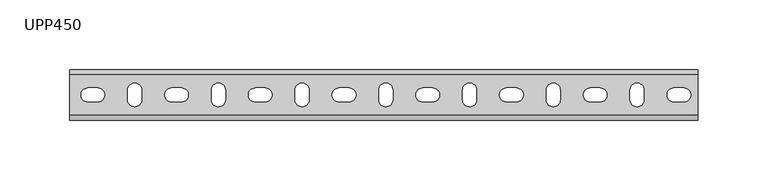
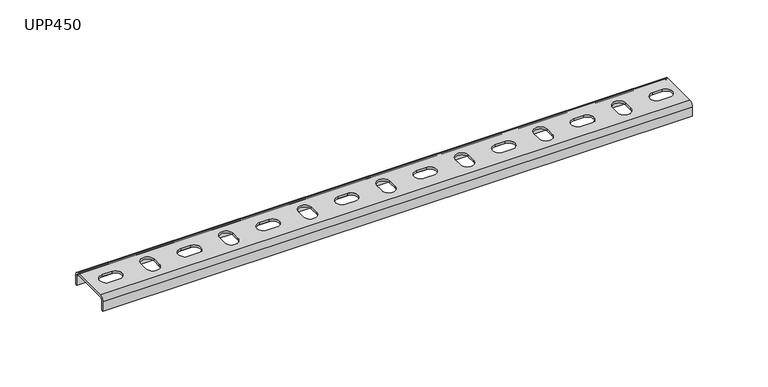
"""IFC4 building model written with IfcOpenShell, lengths in millimetres: proxy geometry, КМ Профиль_Универсальный поддерживающий профиль UPP : UPP450."""

from ifc_helpers import new_model, si_unit, frame, origin, place, context, project, spatial, polyline, circle_curve, source, transform, mapped, element, save
from ifc_brep_helpers import plane_surface, cylinder_surface, revolved_surface, advanced_brep


def upp450_d01de616(model_context):
    return source(origin(), model_context, "Body", "AdvancedBrep", [
        advanced_brep(
        [(0.0, 16.5, -3.5), (0.0, 14.5, -1.5), (0.0, -14.5, -1.5), (0.0, -16.5, -3.5), (0.0, -16.5, -11.0), (0.0, -18.0, -11.0), (0.0, -18.0, -3.5), (0.0, -14.5, 0.0), (0.0, 14.5, 0.0), (0.0, 18.0, -3.5), (0.0, 18.0, -11.0), (0.0, 16.5, -11.0), (450.0, 14.5, -1.5), (450.0, 16.5, -3.5), (450.0, 16.5, -11.0), (450.0, 18.0, -11.0), (450.0, 18.0, -3.5), (450.0, 14.5, 0.0), (450.0, -14.5, 0.0), (450.0, -18.0, -3.5), (450.0, -18.0, -11.0), (450.0, -16.5, -11.0), (450.0, -16.5, -3.5), (450.0, -14.5, -1.5), (80.0, 5.0, -1.5), (73.0, 5.0, -1.5), (73.0, -5.0, -1.5), (80.0, -5.0, -1.5), (140.0, 5.0, -1.5), (133.0, 5.0, -1.5), (133.0, -5.0, -1.5), (140.0, -5.0, -1.5), (101.5, 3.5, -1.5), (101.5, -3.5, -1.5), (111.5, -3.5, -1.5), (111.5, 3.5, -1.5), (200.0, 5.0, -1.5), (193.0, 5.0, -1.5), (193.0, -5.0, -1.5), (200.0, -5.0, -1.5), (260.0, 5.0, -1.5), (253.0, 5.0, -1.5), (253.0, -5.0, -1.5), (260.0, -5.0, -1.5), (320.0, 5.0, -1.5), (313.0, 5.0, -1.5), (313.0, -5.0, -1.5), (320.0, -5.0, -1.5), (380.0, 5.0, -1.5), (373.0, 5.0, -1.5), (373.0, -5.0, -1.5), (380.0, -5.0, -1.5), (440.0, 5.0, -1.5), (433.0, 5.0, -1.5), (433.0, -5.0, -1.5), (440.0, -5.0, -1.5), (161.5, 3.5, -1.5), (161.5, -3.5, -1.5), (171.5, -3.5, -1.5), (171.5, 3.5, -1.5), (221.5, 3.5, -1.5), (221.5, -3.5, -1.5), (231.5, -3.5, -1.5), (231.5, 3.5, -1.5), (281.5, 3.5, -1.5), (281.5, -3.5, -1.5), (291.5, -3.5, -1.5), (291.5, 3.5, -1.5), (341.5, 3.5, -1.5), (341.5, -3.5, -1.5), (351.5, -3.5, -1.5), (351.5, 3.5, -1.5), (401.5, 3.5, -1.5), (401.5, -3.5, -1.5), (411.5, -3.5, -1.5), (411.5, 3.5, -1.5), (41.5, 3.5, -1.5), (41.5, -3.5, -1.5), (51.5, -3.5, -1.5), (51.5, 3.5, -1.5), (20.0, 5.0, -1.5), (13.0, 5.0, -1.5), (13.0, -5.0, -1.5), (20.0, -5.0, -1.5), (73.0, 5.0, 0.0), (80.0, 5.0, 0.0), (80.0, -5.0, 0.0), (73.0, -5.0, 0.0), (133.0, 5.0, 0.0), (140.0, 5.0, 0.0), (140.0, -5.0, 0.0), (133.0, -5.0, 0.0), (101.5, -3.5, 0.0), (101.5, 3.5, 0.0), (111.5, 3.5, 0.0), (111.5, -3.5, 0.0), (193.0, 5.0, 0.0), (200.0, 5.0, 0.0), (200.0, -5.0, 0.0), (193.0, -5.0, 0.0), (253.0, 5.0, 0.0), (260.0, 5.0, 0.0), (260.0, -5.0, 0.0), (253.0, -5.0, 0.0), (313.0, 5.0, 0.0), (320.0, 5.0, 0.0), (320.0, -5.0, 0.0), (313.0, -5.0, 0.0), (373.0, 5.0, 0.0), (380.0, 5.0, 0.0), (380.0, -5.0, 0.0), (373.0, -5.0, 0.0), (433.0, 5.0, 0.0), (440.0, 5.0, 0.0), (440.0, -5.0, 0.0), (433.0, -5.0, 0.0), (161.5, -3.5, 0.0), (161.5, 3.5, 0.0), (171.5, 3.5, 0.0), (171.5, -3.5, 0.0), (221.5, -3.5, 0.0), (221.5, 3.5, 0.0), (231.5, 3.5, 0.0), (231.5, -3.5, 0.0), (281.5, -3.5, 0.0), (281.5, 3.5, 0.0), (291.5, 3.5, 0.0), (291.5, -3.5, 0.0), (341.5, -3.5, 0.0), (341.5, 3.5, 0.0), (351.5, 3.5, 0.0), (351.5, -3.5, 0.0), (401.5, -3.5, 0.0), (401.5, 3.5, 0.0), (411.5, 3.5, 0.0), (411.5, -3.5, 0.0), (41.5, -3.5, 0.0), (41.5, 3.5, 0.0), (51.5, 3.5, 0.0), (51.5, -3.5, 0.0), (13.0, 5.0, 0.0), (20.0, 5.0, 0.0), (20.0, -5.0, 0.0), (13.0, -5.0, 0.0)],
        [
            (0, 1, circle_curve(frame((0.0, 14.5, -3.5), z_axis=(1.0, 0.0, 0.0), x_axis=(0.0, 1.0, 0.0)), 2.0)),
            (1, 2),
            (2, 3, circle_curve(frame((0.0, -14.5, -3.5), z_axis=(1.0, 0.0, 0.0), x_axis=(0.0, 1.0, 0.0)), 2.0)),
            (3, 4),
            (4, 5),
            (5, 6),
            (6, 7, circle_curve(frame((0.0, -14.5, -3.5), z_axis=(-1.0, 0.0, 0.0), x_axis=(0.0, 1.0, 0.0)), 3.5)),
            (7, 8),
            (8, 9, circle_curve(frame((0.0, 14.5, -3.5), z_axis=(-1.0, 0.0, 0.0), x_axis=(0.0, 1.0, 0.0)), 3.5)),
            (9, 10),
            (10, 11),
            (11, 0),
            (12, 13, circle_curve(frame((450.0, 14.5, -3.5), z_axis=(-1.0, 0.0, 0.0), x_axis=(0.0, 1.0, 0.0)), 2.0)),
            (13, 14),
            (14, 15),
            (15, 16),
            (16, 17, circle_curve(frame((450.0, 14.5, -3.5), z_axis=(1.0, 0.0, 0.0), x_axis=(0.0, 1.0, 0.0)), 3.5)),
            (17, 18),
            (18, 19, circle_curve(frame((450.0, -14.5, -3.5), z_axis=(1.0, 0.0, 0.0), x_axis=(0.0, 1.0, 0.0)), 3.5)),
            (19, 20),
            (20, 21),
            (21, 22),
            (22, 23, circle_curve(frame((450.0, -14.5, -3.5), z_axis=(-1.0, 0.0, 0.0), x_axis=(0.0, 1.0, 0.0)), 2.0)),
            (23, 12),
            (0, 13),
            (12, 1),
            (23, 2),
            (24, 25),
            (25, 26, circle_curve(frame((73.0, 0.0, -1.5), z_axis=(0.0, 0.0, 1.0), x_axis=(1.0, 0.0, 0.0)), 5.0)),
            (26, 27),
            (27, 24, circle_curve(frame((80.0, 0.0, -1.5), z_axis=(0.0, 0.0, 1.0), x_axis=(1.0, 0.0, 0.0)), 5.0)),
            (28, 29),
            (29, 30, circle_curve(frame((133.0, 0.0, -1.5), z_axis=(0.0, 0.0, 1.0), x_axis=(1.0, 0.0, 0.0)), 5.0)),
            (30, 31),
            (31, 28, circle_curve(frame((140.0, 0.0, -1.5), z_axis=(0.0, 0.0, 1.0), x_axis=(1.0, 0.0, 0.0)), 5.0)),
            (32, 33),
            (33, 34, circle_curve(frame((106.5, -3.5, -1.5), z_axis=(0.0, 0.0, 1.0), x_axis=(0.0, 1.0, 0.0)), 5.0)),
            (34, 35),
            (35, 32, circle_curve(frame((106.5, 3.5, -1.5), z_axis=(0.0, 0.0, 1.0), x_axis=(0.0, 1.0, 0.0)), 5.0)),
            (36, 37),
            (37, 38, circle_curve(frame((193.0, 0.0, -1.5), z_axis=(0.0, 0.0, 1.0), x_axis=(1.0, 0.0, 0.0)), 5.0)),
            (38, 39),
            (39, 36, circle_curve(frame((200.0, 0.0, -1.5), z_axis=(0.0, 0.0, 1.0), x_axis=(1.0, 0.0, 0.0)), 5.0)),
            (40, 41),
            (41, 42, circle_curve(frame((253.0, 0.0, -1.5), z_axis=(0.0, 0.0, 1.0), x_axis=(1.0, 0.0, 0.0)), 5.0)),
            (42, 43),
            (43, 40, circle_curve(frame((260.0, 0.0, -1.5), z_axis=(0.0, 0.0, 1.0), x_axis=(1.0, 0.0, 0.0)), 5.0)),
            (44, 45),
            (45, 46, circle_curve(frame((313.0, 0.0, -1.5), z_axis=(0.0, 0.0, 1.0), x_axis=(1.0, 0.0, 0.0)), 5.0)),
            (46, 47),
            (47, 44, circle_curve(frame((320.0, 0.0, -1.5), z_axis=(0.0, 0.0, 1.0), x_axis=(1.0, 0.0, 0.0)), 5.0)),
            (48, 49),
            (49, 50, circle_curve(frame((373.0, 0.0, -1.5), z_axis=(0.0, 0.0, 1.0), x_axis=(1.0, 0.0, 0.0)), 5.0)),
            (50, 51),
            (51, 48, circle_curve(frame((380.0, 0.0, -1.5), z_axis=(0.0, 0.0, 1.0), x_axis=(1.0, 0.0, 0.0)), 5.0)),
            (52, 53),
            (53, 54, circle_curve(frame((433.0, 0.0, -1.5), z_axis=(0.0, 0.0, 1.0), x_axis=(1.0, 0.0, 0.0)), 5.0)),
            (54, 55),
            (55, 52, circle_curve(frame((440.0, 0.0, -1.5), z_axis=(0.0, 0.0, 1.0), x_axis=(1.0, 0.0, 0.0)), 5.0)),
            (56, 57),
            (57, 58, circle_curve(frame((166.5, -3.5, -1.5), z_axis=(0.0, 0.0, 1.0), x_axis=(0.0, 1.0, 0.0)), 5.0)),
            (58, 59),
            (59, 56, circle_curve(frame((166.5, 3.5, -1.5), z_axis=(0.0, 0.0, 1.0), x_axis=(0.0, 1.0, 0.0)), 5.0)),
            (60, 61),
            (61, 62, circle_curve(frame((226.5, -3.5, -1.5), z_axis=(0.0, 0.0, 1.0), x_axis=(0.0, 1.0, 0.0)), 5.0)),
            (62, 63),
            (63, 60, circle_curve(frame((226.5, 3.5, -1.5), z_axis=(0.0, 0.0, 1.0), x_axis=(0.0, 1.0, 0.0)), 5.0)),
            (64, 65),
            (65, 66, circle_curve(frame((286.5, -3.5, -1.5), z_axis=(0.0, 0.0, 1.0), x_axis=(0.0, 1.0, 0.0)), 5.0)),
            (66, 67),
            (67, 64, circle_curve(frame((286.5, 3.5, -1.5), z_axis=(0.0, 0.0, 1.0), x_axis=(0.0, 1.0, 0.0)), 5.0)),
            (68, 69),
            (69, 70, circle_curve(frame((346.5, -3.5, -1.5), z_axis=(0.0, 0.0, 1.0), x_axis=(0.0, 1.0, 0.0)), 5.0)),
            (70, 71),
            (71, 68, circle_curve(frame((346.5, 3.5, -1.5), z_axis=(0.0, 0.0, 1.0), x_axis=(0.0, 1.0, 0.0)), 5.0)),
            (72, 73),
            (73, 74, circle_curve(frame((406.5, -3.5, -1.5), z_axis=(0.0, 0.0, 1.0), x_axis=(0.0, 1.0, 0.0)), 5.0)),
            (74, 75),
            (75, 72, circle_curve(frame((406.5, 3.5, -1.5), z_axis=(0.0, 0.0, 1.0), x_axis=(0.0, 1.0, 0.0)), 5.0)),
            (76, 77),
            (77, 78, circle_curve(frame((46.5, -3.5, -1.5), z_axis=(0.0, 0.0, 1.0), x_axis=(0.0, 1.0, 0.0)), 5.0)),
            (78, 79),
            (79, 76, circle_curve(frame((46.5, 3.5, -1.5), z_axis=(0.0, 0.0, 1.0), x_axis=(0.0, 1.0, 0.0)), 5.0)),
            (80, 81),
            (81, 82, circle_curve(frame((13.0, 0.0, -1.5), z_axis=(0.0, 0.0, 1.0), x_axis=(1.0, 0.0, 0.0)), 5.0)),
            (82, 83),
            (83, 80, circle_curve(frame((20.0, 0.0, -1.5), z_axis=(0.0, 0.0, 1.0), x_axis=(1.0, 0.0, 0.0)), 5.0)),
            (22, 3),
            (21, 4),
            (20, 5),
            (19, 6),
            (18, 7),
            (17, 8),
            (84, 85),
            (85, 86, circle_curve(frame((80.0, 0.0, 0.0), z_axis=(0.0, 0.0, -1.0), x_axis=(1.0, 0.0, 0.0)), 5.0)),
            (86, 87),
            (87, 84, circle_curve(frame((73.0, 0.0, 0.0), z_axis=(0.0, 0.0, -1.0), x_axis=(1.0, 0.0, 0.0)), 5.0)),
            (88, 89),
            (89, 90, circle_curve(frame((140.0, 0.0, 0.0), z_axis=(0.0, 0.0, -1.0), x_axis=(1.0, 0.0, 0.0)), 5.0)),
            (90, 91),
            (91, 88, circle_curve(frame((133.0, 0.0, 0.0), z_axis=(0.0, 0.0, -1.0), x_axis=(1.0, 0.0, 0.0)), 5.0)),
            (92, 93),
            (93, 94, circle_curve(frame((106.5, 3.5, 0.0), z_axis=(0.0, 0.0, -1.0), x_axis=(0.0, 1.0, 0.0)), 5.0)),
            (94, 95),
            (95, 92, circle_curve(frame((106.5, -3.5, 0.0), z_axis=(0.0, 0.0, -1.0), x_axis=(0.0, 1.0, 0.0)), 5.0)),
            (96, 97),
            (97, 98, circle_curve(frame((200.0, 0.0, 0.0), z_axis=(0.0, 0.0, -1.0), x_axis=(1.0, 0.0, 0.0)), 5.0)),
            (98, 99),
            (99, 96, circle_curve(frame((193.0, 0.0, 0.0), z_axis=(0.0, 0.0, -1.0), x_axis=(1.0, 0.0, 0.0)), 5.0)),
            (100, 101),
            (101, 102, circle_curve(frame((260.0, 0.0, 0.0), z_axis=(0.0, 0.0, -1.0), x_axis=(1.0, 0.0, 0.0)), 5.0)),
            (102, 103),
            (103, 100, circle_curve(frame((253.0, 0.0, 0.0), z_axis=(0.0, 0.0, -1.0), x_axis=(1.0, 0.0, 0.0)), 5.0)),
            (104, 105),
            (105, 106, circle_curve(frame((320.0, 0.0, 0.0), z_axis=(0.0, 0.0, -1.0), x_axis=(1.0, 0.0, 0.0)), 5.0)),
            (106, 107),
            (107, 104, circle_curve(frame((313.0, 0.0, 0.0), z_axis=(0.0, 0.0, -1.0), x_axis=(1.0, 0.0, 0.0)), 5.0)),
            (108, 109),
            (109, 110, circle_curve(frame((380.0, 0.0, 0.0), z_axis=(0.0, 0.0, -1.0), x_axis=(1.0, 0.0, 0.0)), 5.0)),
            (110, 111),
            (111, 108, circle_curve(frame((373.0, 0.0, 0.0), z_axis=(0.0, 0.0, -1.0), x_axis=(1.0, 0.0, 0.0)), 5.0)),
            (112, 113),
            (113, 114, circle_curve(frame((440.0, 0.0, 0.0), z_axis=(0.0, 0.0, -1.0), x_axis=(1.0, 0.0, 0.0)), 5.0)),
            (114, 115),
            (115, 112, circle_curve(frame((433.0, 0.0, 0.0), z_axis=(0.0, 0.0, -1.0), x_axis=(1.0, 0.0, 0.0)), 5.0)),
            (116, 117),
            (117, 118, circle_curve(frame((166.5, 3.5, 0.0), z_axis=(0.0, 0.0, -1.0), x_axis=(0.0, 1.0, 0.0)), 5.0)),
            (118, 119),
            (119, 116, circle_curve(frame((166.5, -3.5, 0.0), z_axis=(0.0, 0.0, -1.0), x_axis=(0.0, 1.0, 0.0)), 5.0)),
            (120, 121),
            (121, 122, circle_curve(frame((226.5, 3.5, 0.0), z_axis=(0.0, 0.0, -1.0), x_axis=(0.0, 1.0, 0.0)), 5.0)),
            (122, 123),
            (123, 120, circle_curve(frame((226.5, -3.5, 0.0), z_axis=(0.0, 0.0, -1.0), x_axis=(0.0, 1.0, 0.0)), 5.0)),
            (124, 125),
            (125, 126, circle_curve(frame((286.5, 3.5, 0.0), z_axis=(0.0, 0.0, -1.0), x_axis=(0.0, 1.0, 0.0)), 5.0)),
            (126, 127),
            (127, 124, circle_curve(frame((286.5, -3.5, 0.0), z_axis=(0.0, 0.0, -1.0), x_axis=(0.0, 1.0, 0.0)), 5.0)),
            (128, 129),
            (129, 130, circle_curve(frame((346.5, 3.5, 0.0), z_axis=(0.0, 0.0, -1.0), x_axis=(0.0, 1.0, 0.0)), 5.0)),
            (130, 131),
            (131, 128, circle_curve(frame((346.5, -3.5, 0.0), z_axis=(0.0, 0.0, -1.0), x_axis=(0.0, 1.0, 0.0)), 5.0)),
            (132, 133),
            (133, 134, circle_curve(frame((406.5, 3.5, 0.0), z_axis=(0.0, 0.0, -1.0), x_axis=(0.0, 1.0, 0.0)), 5.0)),
            (134, 135),
            (135, 132, circle_curve(frame((406.5, -3.5, 0.0), z_axis=(0.0, 0.0, -1.0), x_axis=(0.0, 1.0, 0.0)), 5.0)),
            (136, 137),
            (137, 138, circle_curve(frame((46.5, 3.5, 0.0), z_axis=(0.0, 0.0, -1.0), x_axis=(0.0, 1.0, 0.0)), 5.0)),
            (138, 139),
            (139, 136, circle_curve(frame((46.5, -3.5, 0.0), z_axis=(0.0, 0.0, -1.0), x_axis=(0.0, 1.0, 0.0)), 5.0)),
            (140, 141),
            (141, 142, circle_curve(frame((20.0, 0.0, 0.0), z_axis=(0.0, 0.0, -1.0), x_axis=(1.0, 0.0, 0.0)), 5.0)),
            (142, 143),
            (143, 140, circle_curve(frame((13.0, 0.0, 0.0), z_axis=(0.0, 0.0, -1.0), x_axis=(1.0, 0.0, 0.0)), 5.0)),
            (16, 9),
            (15, 10),
            (14, 11),
            (84, 25),
            (24, 85),
            (87, 26),
            (86, 27),
            (88, 29),
            (28, 89),
            (91, 30),
            (90, 31),
            (92, 33),
            (32, 93),
            (95, 34),
            (94, 35),
            (96, 37),
            (36, 97),
            (99, 38),
            (98, 39),
            (100, 41),
            (40, 101),
            (103, 42),
            (102, 43),
            (104, 45),
            (44, 105),
            (107, 46),
            (106, 47),
            (108, 49),
            (48, 109),
            (111, 50),
            (110, 51),
            (112, 53),
            (52, 113),
            (115, 54),
            (114, 55),
            (116, 57),
            (56, 117),
            (119, 58),
            (118, 59),
            (120, 61),
            (60, 121),
            (123, 62),
            (122, 63),
            (124, 65),
            (64, 125),
            (127, 66),
            (126, 67),
            (128, 69),
            (68, 129),
            (131, 70),
            (130, 71),
            (132, 73),
            (72, 133),
            (135, 74),
            (134, 75),
            (136, 77),
            (76, 137),
            (139, 78),
            (138, 79),
            (140, 81),
            (80, 141),
            (143, 82),
            (142, 83),
        ],
        [
            plane_surface(frame((0.0, 0.0, 0.0), z_axis=(-1.0, 0.0, 0.0), x_axis=(0.0, 0.0, 1.0))),
            plane_surface(frame((450.0, 0.0, 0.0), z_axis=(1.0, 0.0, 0.0), x_axis=(0.0, 0.0, 1.0))),
            revolved_surface(polyline([(450.0, 16.5, -3.5), (0.0, 16.5, -3.5)]), (0.0, 14.5, -3.5), (1.0, 0.0, 0.0)),
            plane_surface(frame((0.0, 14.5, -1.5), z_axis=(0.0, 0.0, -1.0), x_axis=(1.0, 0.0, 0.0))),
            revolved_surface(polyline([(450.0, -12.5, -3.5), (0.0, -12.5, -3.5)]), (0.0, -14.5, -3.5), (1.0, 0.0, 0.0)),
            plane_surface(frame((0.0, -16.5, -3.5), z_axis=(0.0, 1.0, 0.0), x_axis=(1.0, 0.0, 0.0))),
            plane_surface(frame((0.0, -16.5, -11.0), z_axis=(0.0, 0.0, -1.0), x_axis=(1.0, 0.0, 0.0))),
            plane_surface(frame((0.0, -18.0, -11.0), z_axis=(0.0, -1.0, 0.0), x_axis=(1.0, 0.0, 0.0))),
            cylinder_surface(frame((0.0, -14.5, -3.5), z_axis=(-1.0, 0.0, 0.0), x_axis=(0.0, 1.0, 0.0)), 3.5),
            plane_surface(frame((0.0, -14.5, 0.0), z_axis=(0.0, 0.0, 1.0), x_axis=(1.0, 0.0, 0.0))),
            cylinder_surface(frame((0.0, 14.5, -3.5), z_axis=(-1.0, 0.0, 0.0), x_axis=(0.0, 1.0, 0.0)), 3.5),
            plane_surface(frame((0.0, 18.0, -3.5), z_axis=(0.0, 1.0, 0.0), x_axis=(1.0, 0.0, 0.0))),
            plane_surface(frame((0.0, 18.0, -11.0), z_axis=(0.0, 0.0, -1.0), x_axis=(1.0, 0.0, 0.0))),
            plane_surface(frame((0.0, 16.5, -11.0), z_axis=(0.0, -1.0, 0.0), x_axis=(1.0, 0.0, 0.0))),
            plane_surface(frame((80.0, 5.0, 0.0), z_axis=(0.0, -1.0, 0.0), x_axis=(0.0, 0.0, -1.0))),
            revolved_surface(polyline([(78.0, 0.0, 0.0), (78.0, 0.0, -1.5)]), (73.0, 0.0, -1.5), (0.0, 0.0, 1.0)),
            plane_surface(frame((73.0, -5.0, 0.0), z_axis=(0.0, 1.0, 0.0), x_axis=(0.0, 0.0, -1.0))),
            revolved_surface(polyline([(85.0, 0.0, 0.0), (85.0, 0.0, -1.5)]), (80.0, 0.0, -1.5), (0.0, 0.0, 1.0)),
            plane_surface(frame((140.0, 5.0, 0.0), z_axis=(0.0, -1.0, 0.0), x_axis=(0.0, 0.0, -1.0))),
            revolved_surface(polyline([(138.0, 0.0, 0.0), (138.0, 0.0, -1.5)]), (133.0, 0.0, -1.5), (0.0, 0.0, 1.0)),
            plane_surface(frame((133.0, -5.0, 0.0), z_axis=(0.0, 1.0, 0.0), x_axis=(0.0, 0.0, -1.0))),
            revolved_surface(polyline([(145.0, 0.0, 0.0), (145.0, 0.0, -1.5)]), (140.0, 0.0, -1.5), (0.0, 0.0, 1.0)),
            plane_surface(frame((101.5, 3.5, 0.0), z_axis=(1.0, 0.0, 0.0), x_axis=(0.0, 0.0, -1.0))),
            revolved_surface(polyline([(106.5, 1.5, 0.0), (106.5, 1.5, -1.5)]), (106.5, -3.5, -1.5), (0.0, 0.0, 1.0)),
            plane_surface(frame((111.5, -3.5, 0.0), z_axis=(-1.0, 0.0, 0.0), x_axis=(0.0, 0.0, -1.0))),
            revolved_surface(polyline([(106.5, 8.5, 0.0), (106.5, 8.5, -1.5)]), (106.5, 3.5, -1.5), (0.0, 0.0, 1.0)),
            plane_surface(frame((200.0, 5.0, 0.0), z_axis=(0.0, -1.0, 0.0), x_axis=(0.0, 0.0, -1.0))),
            revolved_surface(polyline([(198.0, 0.0, 0.0), (198.0, 0.0, -1.5)]), (193.0, 0.0, -1.5), (0.0, 0.0, 1.0)),
            plane_surface(frame((193.0, -5.0, 0.0), z_axis=(0.0, 1.0, 0.0), x_axis=(0.0, 0.0, -1.0))),
            revolved_surface(polyline([(205.0, 0.0, 0.0), (205.0, 0.0, -1.5)]), (200.0, 0.0, -1.5), (0.0, 0.0, 1.0)),
            plane_surface(frame((260.0, 5.0, 0.0), z_axis=(0.0, -1.0, 0.0), x_axis=(0.0, 0.0, -1.0))),
            revolved_surface(polyline([(258.0, 0.0, 0.0), (258.0, 0.0, -1.5)]), (253.0, 0.0, -1.5), (0.0, 0.0, 1.0)),
            plane_surface(frame((253.0, -5.0, 0.0), z_axis=(0.0, 1.0, 0.0), x_axis=(0.0, 0.0, -1.0))),
            revolved_surface(polyline([(265.0, 0.0, 0.0), (265.0, 0.0, -1.5)]), (260.0, 0.0, -1.5), (0.0, 0.0, 1.0)),
            plane_surface(frame((320.0, 5.0, 0.0), z_axis=(0.0, -1.0, 0.0), x_axis=(0.0, 0.0, -1.0))),
            revolved_surface(polyline([(318.0, 0.0, 0.0), (318.0, 0.0, -1.5)]), (313.0, 0.0, -1.5), (0.0, 0.0, 1.0)),
            plane_surface(frame((313.0, -5.0, 0.0), z_axis=(0.0, 1.0, 0.0), x_axis=(0.0, 0.0, -1.0))),
            revolved_surface(polyline([(325.0, 0.0, 0.0), (325.0, 0.0, -1.5)]), (320.0, 0.0, -1.5), (0.0, 0.0, 1.0)),
            plane_surface(frame((380.0, 5.0, 0.0), z_axis=(0.0, -1.0, 0.0), x_axis=(0.0, 0.0, -1.0))),
            revolved_surface(polyline([(378.0, 0.0, 0.0), (378.0, 0.0, -1.5)]), (373.0, 0.0, -1.5), (0.0, 0.0, 1.0)),
            plane_surface(frame((373.0, -5.0, 0.0), z_axis=(0.0, 1.0, 0.0), x_axis=(0.0, 0.0, -1.0))),
            revolved_surface(polyline([(385.0, 0.0, 0.0), (385.0, 0.0, -1.5)]), (380.0, 0.0, -1.5), (0.0, 0.0, 1.0)),
            plane_surface(frame((440.0, 5.0, 0.0), z_axis=(0.0, -1.0, 0.0), x_axis=(0.0, 0.0, -1.0))),
            revolved_surface(polyline([(438.0, 0.0, 0.0), (438.0, 0.0, -1.5)]), (433.0, 0.0, -1.5), (0.0, 0.0, 1.0)),
            plane_surface(frame((433.0, -5.0, 0.0), z_axis=(0.0, 1.0, 0.0), x_axis=(0.0, 0.0, -1.0))),
            revolved_surface(polyline([(445.0, 0.0, 0.0), (445.0, 0.0, -1.5)]), (440.0, 0.0, -1.5), (0.0, 0.0, 1.0)),
            plane_surface(frame((161.5, 3.5, 0.0), z_axis=(1.0, 0.0, 0.0), x_axis=(0.0, 0.0, -1.0))),
            revolved_surface(polyline([(166.5, 1.5, 0.0), (166.5, 1.5, -1.5)]), (166.5, -3.5, -1.5), (0.0, 0.0, 1.0)),
            plane_surface(frame((171.5, -3.5, 0.0), z_axis=(-1.0, 0.0, 0.0), x_axis=(0.0, 0.0, -1.0))),
            revolved_surface(polyline([(166.5, 8.5, 0.0), (166.5, 8.5, -1.5)]), (166.5, 3.5, -1.5), (0.0, 0.0, 1.0)),
            plane_surface(frame((221.5, 3.5, 0.0), z_axis=(1.0, 0.0, 0.0), x_axis=(0.0, 0.0, -1.0))),
            revolved_surface(polyline([(226.5, 1.5, 0.0), (226.5, 1.5, -1.5)]), (226.5, -3.5, -1.5), (0.0, 0.0, 1.0)),
            plane_surface(frame((231.5, -3.5, 0.0), z_axis=(-1.0, 0.0, 0.0), x_axis=(0.0, 0.0, -1.0))),
            revolved_surface(polyline([(226.5, 8.5, 0.0), (226.5, 8.5, -1.5)]), (226.5, 3.5, -1.5), (0.0, 0.0, 1.0)),
            plane_surface(frame((281.5, 3.5, 0.0), z_axis=(1.0, 0.0, 0.0), x_axis=(0.0, 0.0, -1.0))),
            revolved_surface(polyline([(286.5, 1.5, 0.0), (286.5, 1.5, -1.5)]), (286.5, -3.5, -1.5), (0.0, 0.0, 1.0)),
            plane_surface(frame((291.5, -3.5, 0.0), z_axis=(-1.0, 0.0, 0.0), x_axis=(0.0, 0.0, -1.0))),
            revolved_surface(polyline([(286.5, 8.5, 0.0), (286.5, 8.5, -1.5)]), (286.5, 3.5, -1.5), (0.0, 0.0, 1.0)),
            plane_surface(frame((341.5, 3.5, 0.0), z_axis=(1.0, 0.0, 0.0), x_axis=(0.0, 0.0, -1.0))),
            revolved_surface(polyline([(346.5, 1.5, 0.0), (346.5, 1.5, -1.5)]), (346.5, -3.5, -1.5), (0.0, 0.0, 1.0)),
            plane_surface(frame((351.5, -3.5, 0.0), z_axis=(-1.0, 0.0, 0.0), x_axis=(0.0, 0.0, -1.0))),
            revolved_surface(polyline([(346.5, 8.5, 0.0), (346.5, 8.5, -1.5)]), (346.5, 3.5, -1.5), (0.0, 0.0, 1.0)),
            plane_surface(frame((401.5, 3.5, 0.0), z_axis=(1.0, 0.0, 0.0), x_axis=(0.0, 0.0, -1.0))),
            revolved_surface(polyline([(406.5, 1.5, 0.0), (406.5, 1.5, -1.5)]), (406.5, -3.5, -1.5), (0.0, 0.0, 1.0)),
            plane_surface(frame((411.5, -3.5, 0.0), z_axis=(-1.0, 0.0, 0.0), x_axis=(0.0, 0.0, -1.0))),
            revolved_surface(polyline([(406.5, 8.5, 0.0), (406.5, 8.5, -1.5)]), (406.5, 3.5, -1.5), (0.0, 0.0, 1.0)),
            plane_surface(frame((41.5, 3.5, 0.0), z_axis=(1.0, 0.0, 0.0), x_axis=(0.0, 0.0, -1.0))),
            revolved_surface(polyline([(46.5, 1.5, 0.0), (46.5, 1.5, -1.5)]), (46.5, -3.5, -1.5), (0.0, 0.0, 1.0)),
            plane_surface(frame((51.5, -3.5, 0.0), z_axis=(-1.0, 0.0, 0.0), x_axis=(0.0, 0.0, -1.0))),
            revolved_surface(polyline([(46.5, 8.5, 0.0), (46.5, 8.5, -1.5)]), (46.5, 3.5, -1.5), (0.0, 0.0, 1.0)),
            plane_surface(frame((20.0, 5.0, 0.0), z_axis=(0.0, -1.0, 0.0), x_axis=(0.0, 0.0, -1.0))),
            revolved_surface(polyline([(18.0, 0.0, 0.0), (18.0, 0.0, -1.5)]), (13.0, 0.0, -1.5), (0.0, 0.0, 1.0)),
            plane_surface(frame((13.0, -5.0, 0.0), z_axis=(0.0, 1.0, 0.0), x_axis=(0.0, 0.0, -1.0))),
            revolved_surface(polyline([(25.0, 0.0, 0.0), (25.0, 0.0, -1.5)]), (20.0, 0.0, -1.5), (0.0, 0.0, 1.0)),
        ],
        [
            (0, [[1, 2, 3, 4, 5, 6, 7, 8, 9, 10, 11, 12]]),
            (1, [[13, 14, 15, 16, 17, 18, 19, 20, 21, 22, 23, 24]]),
            (2, [[-1, 25, -13, 26]]),
            (3, [[-2, -26, -24, 27], [28, 29, 30, 31], [32, 33, 34, 35], [36, 37, 38, 39], [40, 41, 42, 43], [44, 45, 46, 47], [48, 49, 50, 51], [52, 53, 54, 55], [56, 57, 58, 59], [60, 61, 62, 63], [64, 65, 66, 67], [68, 69, 70, 71], [72, 73, 74, 75], [76, 77, 78, 79], [80, 81, 82, 83], [84, 85, 86, 87]]),
            (4, [[-3, -27, -23, 88]]),
            (5, [[-4, -88, -22, 89]]),
            (6, [[-5, -89, -21, 90]]),
            (7, [[-6, -90, -20, 91]]),
            (8, [[-7, -91, -19, 92]]),
            (9, [[-8, -92, -18, 93], [94, 95, 96, 97], [98, 99, 100, 101], [102, 103, 104, 105], [106, 107, 108, 109], [110, 111, 112, 113], [114, 115, 116, 117], [118, 119, 120, 121], [122, 123, 124, 125], [126, 127, 128, 129], [130, 131, 132, 133], [134, 135, 136, 137], [138, 139, 140, 141], [142, 143, 144, 145], [146, 147, 148, 149], [150, 151, 152, 153]]),
            (10, [[-9, -93, -17, 154]]),
            (11, [[-10, -154, -16, 155]]),
            (12, [[-11, -155, -15, 156]]),
            (13, [[-12, -156, -14, -25]]),
            (14, [[157, -28, 158, -94]]),
            (15, [[-157, -97, 159, -29]]),
            (16, [[-159, -96, 160, -30]]),
            (17, [[-158, -31, -160, -95]]),
            (18, [[161, -32, 162, -98]]),
            (19, [[-161, -101, 163, -33]]),
            (20, [[-163, -100, 164, -34]]),
            (21, [[-162, -35, -164, -99]]),
            (22, [[165, -36, 166, -102]]),
            (23, [[-165, -105, 167, -37]]),
            (24, [[-167, -104, 168, -38]]),
            (25, [[-166, -39, -168, -103]]),
            (26, [[169, -40, 170, -106]]),
            (27, [[-169, -109, 171, -41]]),
            (28, [[-171, -108, 172, -42]]),
            (29, [[-170, -43, -172, -107]]),
            (30, [[173, -44, 174, -110]]),
            (31, [[-173, -113, 175, -45]]),
            (32, [[-175, -112, 176, -46]]),
            (33, [[-174, -47, -176, -111]]),
            (34, [[177, -48, 178, -114]]),
            (35, [[-177, -117, 179, -49]]),
            (36, [[-179, -116, 180, -50]]),
            (37, [[-178, -51, -180, -115]]),
            (38, [[181, -52, 182, -118]]),
            (39, [[-181, -121, 183, -53]]),
            (40, [[-183, -120, 184, -54]]),
            (41, [[-182, -55, -184, -119]]),
            (42, [[185, -56, 186, -122]]),
            (43, [[-185, -125, 187, -57]]),
            (44, [[-187, -124, 188, -58]]),
            (45, [[-186, -59, -188, -123]]),
            (46, [[189, -60, 190, -126]]),
            (47, [[-189, -129, 191, -61]]),
            (48, [[-191, -128, 192, -62]]),
            (49, [[-190, -63, -192, -127]]),
            (50, [[193, -64, 194, -130]]),
            (51, [[-193, -133, 195, -65]]),
            (52, [[-195, -132, 196, -66]]),
            (53, [[-194, -67, -196, -131]]),
            (54, [[197, -68, 198, -134]]),
            (55, [[-197, -137, 199, -69]]),
            (56, [[-199, -136, 200, -70]]),
            (57, [[-198, -71, -200, -135]]),
            (58, [[201, -72, 202, -138]]),
            (59, [[-201, -141, 203, -73]]),
            (60, [[-203, -140, 204, -74]]),
            (61, [[-202, -75, -204, -139]]),
            (62, [[205, -76, 206, -142]]),
            (63, [[-205, -145, 207, -77]]),
            (64, [[-207, -144, 208, -78]]),
            (65, [[-206, -79, -208, -143]]),
            (66, [[209, -80, 210, -146]]),
            (67, [[-209, -149, 211, -81]]),
            (68, [[-211, -148, 212, -82]]),
            (69, [[-210, -83, -212, -147]]),
            (70, [[213, -84, 214, -150]]),
            (71, [[-213, -153, 215, -85]]),
            (72, [[-215, -152, 216, -86]]),
            (73, [[-214, -87, -216, -151]]),
        ],
    ),
    ])


if __name__ == "__main__":
    model = new_model("IFC4")
    model_context = context("Model", 3, world=origin())
    ifc_project = project(units=[si_unit("LENGTHUNIT", "METRE", prefix="MILLI")], contexts=[model_context])
    site = spatial("IfcSite", under=ifc_project)
    building = spatial("IfcBuilding", under=site)
    placement = place(None, origin())
    upp450_shape = upp450_d01de616(model_context)
    element("IfcBuildingElementProxy", 1, Name="КМ Профиль_Универсальный поддерживающий профиль UPP : UPP450", ObjectType="КМ Профиль_Универсальный поддерживающий профиль UPP : UPP450", at=placement, inside=building, context=model_context, shape_type="MappedRepresentation", body=[
        mapped(upp450_shape, transform((0.0, 0.0, 0.0), x_axis=(1.0, 0.0, 0.0), y_axis=(0.0, 1.0, 0.0), z_axis=(0.0, 0.0, 1.0))),
    ])
    save(model, "model.ifc")
